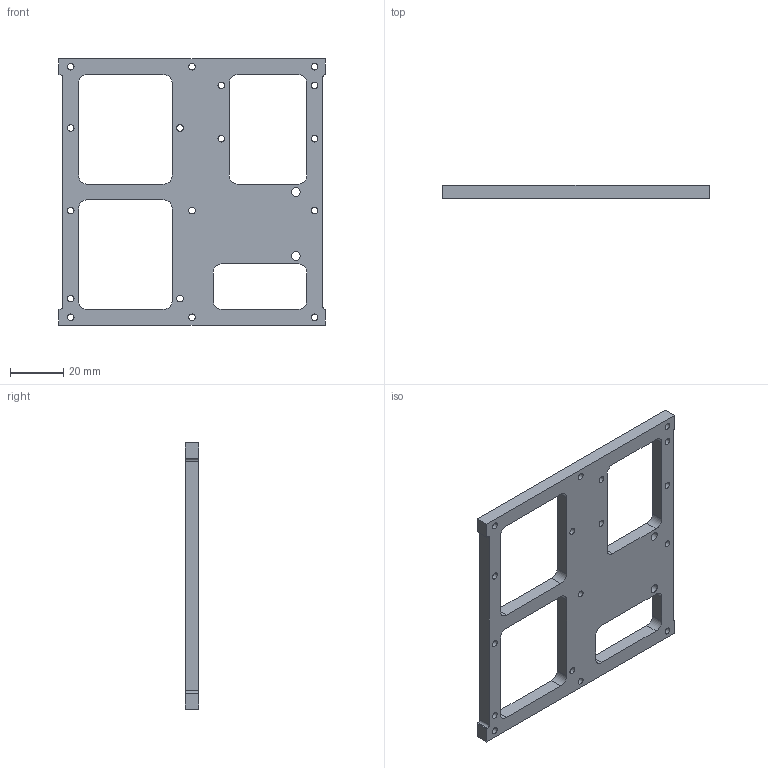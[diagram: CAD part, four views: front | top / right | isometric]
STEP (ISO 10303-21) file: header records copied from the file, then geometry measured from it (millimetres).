
FILE_DESCRIPTION(/* description */ ('','CAx-IF Rec.Pracs.---Representation and Presentation of Product Manufacturing Information (PMI)---4.0---2014-10-13'),/* implementation_level */ '2;1');
FILE_NAME(/* name */ 'a1_mini_control_brd_L1_v3.step',/* time_stamp */ '2025-01-03T04:26:49+08:00',/* author */ (''),/* organization */ (''),/* preprocessor_version */ 'ST-DEVELOPER v20',/* originating_system */ 'Autodesk Translation Framework v13.20.0.188',/* authorisation */ '');
FILE_SCHEMA (('AP242_MANAGED_MODEL_BASED_3D_ENGINEERING_MIM_LF { 1 0 10303 442 1 1 4 }'));
Length unit declared in the file: millimetre
Products named in the file (1): a1_mini_control_brd_L1
Bounding box: 100 x 5 x 100 mm (x, y, z)
Volume: 25291.1 mm3; surface area: 15538 mm2
Topology: 1 solids, 1 shells, 67 faces, 195 edges, 130 vertices
Faces by surface type: cylinder 39, plane 28
Full cylindrical faces by diameter (mm): 2.5 x17, 3.2 x2
Entity records: 2372 total; most frequent: DIRECTION 409, CARTESIAN_POINT 393, ORIENTED_EDGE 390, EDGE_CURVE 195, AXIS2_PLACEMENT_3D 146, VERTEX_POINT 130, LINE 117, VECTOR 117
